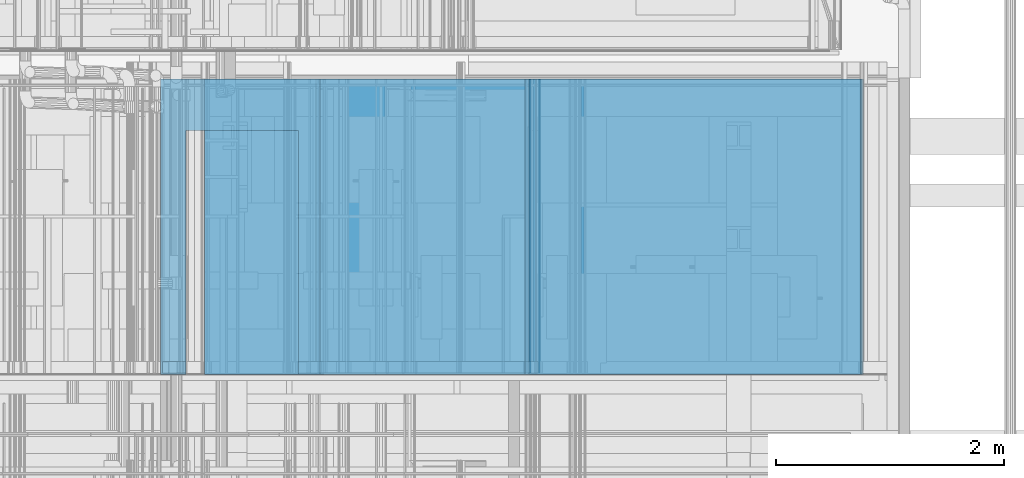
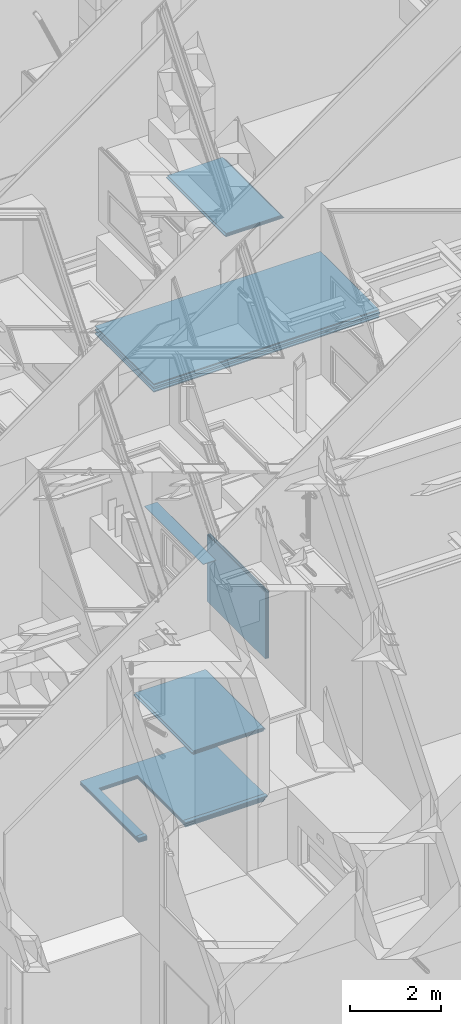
# One storey, part 124 of 583: 20 building element parts, 1 opening, 6 elements without a shape of their own.
"""IFC2X3 building model written with IfcOpenShell, lengths in metres."""

from ifc_helpers import new_model, entity, si_unit, converted_unit, derived_unit, money_unit, direction, frame, frame_2d, origin_with_axes, place, context, subcontext, project, spatial, polyline, rectangle, outline, extrude, material, type_object, element, aggregate, save


model = new_model("IFC2X3")

# Units and contexts
model_context = context("Model", 3, precision=1e-05, world=origin_with_axes(), true_north=direction((0.0, 1.0)))
body_context = subcontext(model_context, "Body", "Model", "MODEL_VIEW", scale=1.0)
ifc_project = project(units=[si_unit("LENGTHUNIT", "METRE"), si_unit("AREAUNIT", "SQUARE_METRE"), si_unit("VOLUMEUNIT", "CUBIC_METRE"), si_unit("ABSORBEDDOSEUNIT", "GRAY"), si_unit("AMOUNTOFSUBSTANCEUNIT", "MOLE"), si_unit("DOSEEQUIVALENTUNIT", "SIEVERT"), si_unit("ELECTRICCAPACITANCEUNIT", "FARAD"), si_unit("ELECTRICCHARGEUNIT", "COULOMB"), si_unit("ELECTRICCONDUCTANCEUNIT", "SIEMENS"), si_unit("ELECTRICCURRENTUNIT", "AMPERE"), si_unit("ELECTRICRESISTANCEUNIT", "OHM"), si_unit("ELECTRICVOLTAGEUNIT", "VOLT"), si_unit("ENERGYUNIT", "JOULE"), si_unit("FORCEUNIT", "NEWTON"), si_unit("FREQUENCYUNIT", "HERTZ"), si_unit("ILLUMINANCEUNIT", "LUX"), si_unit("INDUCTANCEUNIT", "HENRY"), si_unit("LUMINOUSFLUXUNIT", "LUMEN"), si_unit("LUMINOUSINTENSITYUNIT", "CANDELA"), si_unit("MAGNETICFLUXDENSITYUNIT", "TESLA"), si_unit("MAGNETICFLUXUNIT", "WEBER"), si_unit("MASSUNIT", "GRAM"), converted_unit("PLANEANGLEUNIT", "degree", entity("IfcReal", 0.0174532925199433), si_unit("PLANEANGLEUNIT", "RADIAN"), dimensions=[0, 0, 0, 0, 0, 0, 0]), si_unit("POWERUNIT", "WATT"), si_unit("PRESSUREUNIT", "PASCAL"), si_unit("RADIOACTIVITYUNIT", "BECQUEREL"), si_unit("SOLIDANGLEUNIT", "STERADIAN"), si_unit("THERMODYNAMICTEMPERATUREUNIT", "KELVIN"), si_unit("TIMEUNIT", "SECOND"), derived_unit("ACCELERATIONUNIT", [(si_unit("LENGTHUNIT", "METRE"), 1), (si_unit("TIMEUNIT", "SECOND"), -2)]), derived_unit("ANGULARVELOCITYUNIT", [(converted_unit("PLANEANGLEUNIT", "degree", entity("IfcReal", 0.0174532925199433), si_unit("PLANEANGLEUNIT", "RADIAN"), dimensions=[0, 0, 0, 0, 0, 0, 0]), 1), (si_unit("TIMEUNIT", "SECOND"), -1)]), derived_unit("CURVATUREUNIT", [(converted_unit("PLANEANGLEUNIT", "degree", entity("IfcReal", 0.0174532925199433), si_unit("PLANEANGLEUNIT", "RADIAN"), dimensions=[0, 0, 0, 0, 0, 0, 0]), 1), (si_unit("LENGTHUNIT", "METRE"), -1)]), derived_unit("DYNAMICVISCOSITYUNIT", [(si_unit("PRESSUREUNIT", "PASCAL"), 1), (si_unit("TIMEUNIT", "SECOND"), 1)]), derived_unit("HEATFLUXDENSITYUNIT", [(si_unit("POWERUNIT", "WATT"), 1), (si_unit("LENGTHUNIT", "METRE"), -2)]), derived_unit("HEATINGVALUEUNIT", [(si_unit("ENERGYUNIT", "JOULE"), 1), (si_unit("MASSUNIT", "GRAM"), -1)]), derived_unit("INTEGERCOUNTRATEUNIT", [(si_unit("TIMEUNIT", "SECOND"), -1)]), derived_unit("IONCONCENTRATIONUNIT", [(si_unit("MASSUNIT", "GRAM"), 1), (si_unit("VOLUMEUNIT", "CUBIC_METRE"), -1)]), derived_unit("ISOTHERMALMOISTURECAPACITYUNIT", [(si_unit("VOLUMEUNIT", "CUBIC_METRE"), 1), (si_unit("MASSUNIT", "GRAM"), -1)]), derived_unit("KINEMATICVISCOSITYUNIT", [(si_unit("AREAUNIT", "SQUARE_METRE"), 1), (si_unit("TIMEUNIT", "SECOND"), -1)]), derived_unit("LINEARFORCEUNIT", [(si_unit("FORCEUNIT", "NEWTON"), 1), (si_unit("LENGTHUNIT", "METRE"), -1)]), derived_unit("LINEARMOMENTUNIT", [(si_unit("FORCEUNIT", "NEWTON"), 1), (si_unit("LENGTHUNIT", "METRE"), -1)]), derived_unit("LINEARSTIFFNESSUNIT", [(si_unit("FORCEUNIT", "NEWTON"), 1), (si_unit("LENGTHUNIT", "METRE"), -1)]), derived_unit("LINEARVELOCITYUNIT", [(si_unit("LENGTHUNIT", "METRE"), 1), (si_unit("TIMEUNIT", "SECOND"), -1)]), derived_unit("LUMINOUSINTENSITYDISTRIBUTIONUNIT", [(si_unit("LUMINOUSINTENSITYUNIT", "CANDELA"), 1), (si_unit("LUMINOUSFLUXUNIT", "LUMEN"), -1)]), derived_unit("MASSDENSITYUNIT", [(si_unit("MASSUNIT", "GRAM"), 1), (si_unit("VOLUMEUNIT", "CUBIC_METRE"), -1)]), derived_unit("MASSFLOWRATEUNIT", [(si_unit("MASSUNIT", "GRAM"), 1), (si_unit("TIMEUNIT", "SECOND"), -1)]), derived_unit("MASSPERLENGTHUNIT", [(si_unit("MASSUNIT", "GRAM"), 1), (si_unit("LENGTHUNIT", "METRE"), -1)]), derived_unit("MODULUSOFELASTICITYUNIT", [(si_unit("FORCEUNIT", "NEWTON"), 1), (si_unit("AREAUNIT", "SQUARE_METRE"), -1)]), derived_unit("MODULUSOFLINEARSUBGRADEREACTIONUNIT", [(si_unit("FORCEUNIT", "NEWTON"), 1), (si_unit("LENGTHUNIT", "METRE"), -2)]), derived_unit("MODULUSOFROTATIONALSUBGRADEREACTIONUNIT", [(si_unit("FORCEUNIT", "NEWTON"), 1), (si_unit("LENGTHUNIT", "METRE"), 1)]), derived_unit("MODULUSOFSUBGRADEREACTIONUNIT", [(si_unit("FORCEUNIT", "NEWTON"), 1), (si_unit("VOLUMEUNIT", "CUBIC_METRE"), -1)]), derived_unit("MOISTUREDIFFUSIVITYUNIT", [(si_unit("VOLUMEUNIT", "CUBIC_METRE"), 1), (si_unit("TIMEUNIT", "SECOND"), -1)]), derived_unit("MOLECULARWEIGHTUNIT", [(si_unit("MASSUNIT", "GRAM"), 1), (si_unit("AMOUNTOFSUBSTANCEUNIT", "MOLE"), -1)]), derived_unit("PLANARFORCEUNIT", [(si_unit("FORCEUNIT", "NEWTON"), 1), (si_unit("LENGTHUNIT", "METRE"), -2)]), derived_unit("ROTATIONALFREQUENCYUNIT", [(si_unit("TIMEUNIT", "SECOND"), -1)]), derived_unit("ROTATIONALMASSUNIT", [(si_unit("MASSUNIT", "GRAM"), 1), (si_unit("LENGTHUNIT", "METRE"), 2)]), derived_unit("ROTATIONALSTIFFNESSUNIT", [(si_unit("FORCEUNIT", "NEWTON"), 1), (si_unit("LENGTHUNIT", "METRE"), 1), (converted_unit("PLANEANGLEUNIT", "degree", entity("IfcReal", 0.0174532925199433), si_unit("PLANEANGLEUNIT", "RADIAN"), dimensions=[0, 0, 0, 0, 0, 0, 0]), -1)]), derived_unit("SECTIONAREAINTEGRALUNIT", [(si_unit("LENGTHUNIT", "METRE"), 5)]), derived_unit("SECTIONMODULUSUNIT", [(si_unit("LENGTHUNIT", "METRE"), 3)]), derived_unit("SHEARMODULUSUNIT", [(si_unit("FORCEUNIT", "NEWTON"), 1), (si_unit("AREAUNIT", "SQUARE_METRE"), -1)]), derived_unit("SOUNDPOWERUNIT", [(si_unit("ENERGYUNIT", "JOULE"), 1), (si_unit("TIMEUNIT", "SECOND"), -1)]), derived_unit("SPECIFICHEATCAPACITYUNIT", [(si_unit("FORCEUNIT", "NEWTON"), 1), (si_unit("MASSUNIT", "GRAM"), -1), (si_unit("THERMODYNAMICTEMPERATUREUNIT", "KELVIN"), -1)]), derived_unit("TEMPERATUREGRADIENTUNIT", [(si_unit("THERMODYNAMICTEMPERATUREUNIT", "KELVIN"), 1), (si_unit("LENGTHUNIT", "METRE"), -1)]), derived_unit("THERMALADMITTANCEUNIT", [(si_unit("POWERUNIT", "WATT"), 1), (si_unit("AREAUNIT", "SQUARE_METRE"), -1), (si_unit("THERMODYNAMICTEMPERATUREUNIT", "KELVIN"), -1)]), derived_unit("THERMALCONDUCTANCEUNIT", [(si_unit("POWERUNIT", "WATT"), 1), (si_unit("LENGTHUNIT", "METRE"), -1), (si_unit("THERMODYNAMICTEMPERATUREUNIT", "KELVIN"), -1)]), derived_unit("THERMALEXPANSIONCOEFFICIENTUNIT", [(si_unit("THERMODYNAMICTEMPERATUREUNIT", "KELVIN"), -1)]), derived_unit("THERMALRESISTANCEUNIT", [(si_unit("AREAUNIT", "SQUARE_METRE"), 1), (si_unit("POWERUNIT", "WATT"), -1)]), derived_unit("THERMALTRANSMITTANCEUNIT", [(si_unit("POWERUNIT", "WATT"), 1), (si_unit("AREAUNIT", "SQUARE_METRE"), -1), (si_unit("THERMODYNAMICTEMPERATUREUNIT", "KELVIN"), -1)]), derived_unit("TORQUEUNIT", [(si_unit("FORCEUNIT", "NEWTON"), 1), (si_unit("LENGTHUNIT", "METRE"), 1)]), derived_unit("VAPORPERMEABILITYUNIT", [(si_unit("MASSUNIT", "GRAM"), 1), (si_unit("TIMEUNIT", "SECOND"), -1)]), derived_unit("VOLUMETRICFLOWRATEUNIT", [(si_unit("VOLUMEUNIT", "CUBIC_METRE"), 1), (si_unit("TIMEUNIT", "SECOND"), -1)]), derived_unit("WARPINGCONSTANTUNIT", [(si_unit("LENGTHUNIT", "METRE"), 6)]), derived_unit("WARPINGMOMENTUNIT", [(si_unit("FORCEUNIT", "NEWTON"), 1), (si_unit("LENGTHUNIT", "METRE"), 2)]), money_unit("GBP")], contexts=[model_context])

# Site, building, storey
site_placement = place(None, origin_with_axes())
site = spatial("IfcSite", under=ifc_project, at=site_placement, Name="Site", CompositionType="ELEMENT")
building_placement = place(site_placement, origin_with_axes())
building = spatial("IfcBuilding", under=site, at=building_placement, Name="Building01", CompositionType="ELEMENT")
storey_placement = place(building_placement, frame((0.0, 0.0, 20.78), z_axis=(0.0, 0.0, 1.0), x_axis=(1.0, 0.0, 0.0)))
storey = spatial("IfcBuildingStorey", under=building, at=storey_placement, Name="RL", CompositionType="ELEMENT", Elevation=20.78)

# Wall, building element parts
wall_type_1 = type_object("IfcWallType", Name="SHE_A-Walls_Type05a_Partition_95mm_tall", PredefinedType="NOTDEFINED")
wall_1_placement = place(storey_placement, frame((10.63, 12.13, -1.694716), z_axis=(0.0, 1.0, 0.0), x_axis=(1.0, 0.0, 0.0)))
wall_1 = element("IfcWall", 1, at=wall_1_placement, inside=storey, type_object=wall_type_1, Name="5A", ObjectType="SHE_A-Walls_Type05a_Partition_95mm_tall")
ifc_material_1 = material(Name="A_BSUK_Insulation")
placement_1 = place(wall_1_placement, origin_with_axes())
building_element_part_1 = element("IfcBuildingElementPart", 2, at=placement_1, material=ifc_material_1, Name="1", context=body_context, shape_type="SweptSolid", body=[
    extrude(outline(polyline([(1.494378, 0.025), (0.0, 0.025), (0.0, 0.0), (1.469378, 0.0), (1.494378, 0.025)])), origin_with_axes(), (0.0, 0.0, 1.0), 2.59),
])
ifc_material_2 = material(Name="A_BSUK_WallInternal_Finishes_Plasterboard")
building_element_part_2 = element("IfcBuildingElementPart", 3, at=placement_1, material=ifc_material_2, Name="4", context=body_context, shape_type="SweptSolid", body=[
    extrude(outline(polyline([(1.529378, 0.06), (0.035, 0.06), (0.035, 0.048), (1.517378, 0.048), (1.529378, 0.06)])), origin_with_axes(), (0.0, 0.0, 1.0), 2.59),
])
building_element_part_3 = element("IfcBuildingElementPart", 4, at=placement_1, material=ifc_material_2, Name="5", context=body_context, shape_type="SweptSolid", body=[
    extrude(outline(polyline([(1.446378, -0.023), (0.035, -0.023), (0.035, -0.035), (1.434378, -0.035), (1.446378, -0.023)])), origin_with_axes(), (0.0, 0.0, 1.0), 2.59),
])
aggregate(wall_1, [building_element_part_1, building_element_part_2, building_element_part_3])

wall_type_2 = type_object("IfcWallType", Name="SHE_A-Walls_Type01c_Partywall_225mm_twin_tall", PredefinedType="NOTDEFINED")
wall_2_placement = place(storey_placement, frame((8.82, 12.13, -5.159868), z_axis=(0.0, 1.0, 0.0), x_axis=(1.0, 0.0, 0.0)))
wall_2 = element("IfcWall", 5, at=wall_2_placement, inside=storey, type_object=wall_type_2, Name="1C", ObjectType="SHE_A-Walls_Type01c_Partywall_225mm_twin_tall")
placement_2 = place(wall_2_placement, origin_with_axes())
building_element_part_4 = element("IfcBuildingElementPart", 6, at=placement_2, material=ifc_material_1, Name="1", context=body_context, shape_type="SweptSolid", body=[
    extrude(rectangle(XDim=5.774, YDim=0.05, at=frame_2d((2.887, 0.025), x_axis=(-1.0, 0.0))), origin_with_axes(), (0.0, 0.0, 1.0), 2.59),
])
building_element_part_5 = element("IfcBuildingElementPart", 7, at=placement_2, material=ifc_material_2, Name="3", context=body_context, shape_type="SweptSolid", body=[
    extrude(rectangle(XDim=5.747, YDim=0.015, at=frame_2d((2.8735, 0.1295), x_axis=(-1.0, 0.0))), origin_with_axes(), (0.0, 0.0, 1.0), 2.59),
])
building_element_part_6 = element("IfcBuildingElementPart", 8, at=placement_2, material=ifc_material_2, Name="4", context=body_context, shape_type="SweptSolid", body=[
    extrude(rectangle(XDim=5.762, YDim=0.015, at=frame_2d((2.881, 0.1145), x_axis=(-1.0, 0.0))), origin_with_axes(), (0.0, 0.0, 1.0), 2.59),
])
building_element_part_7 = element("IfcBuildingElementPart", 9, at=placement_2, material=ifc_material_2, Name="5", context=body_context, shape_type="SweptSolid", body=[
    extrude(rectangle(XDim=5.762, YDim=0.015, at=frame_2d((2.881, -0.0655), x_axis=(-1.0, 0.0))), origin_with_axes(), (0.0, 0.0, 1.0), 2.59),
])
building_element_part_8 = element("IfcBuildingElementPart", 10, at=placement_2, material=ifc_material_2, Name="6", context=body_context, shape_type="SweptSolid", body=[
    extrude(rectangle(XDim=5.747, YDim=0.015, at=frame_2d((2.8735, -0.0805), x_axis=(-1.0, 0.0))), origin_with_axes(), (0.0, 0.0, 1.0), 2.59),
])
aggregate(wall_2, [building_element_part_4, building_element_part_5, building_element_part_6, building_element_part_7, building_element_part_8])

wall_3_placement = place(storey_placement, frame((11.703124, 12.13, -11.69), z_axis=(0.0, 1.0, 0.0), x_axis=(0.0, 0.0, -1.0)))
wall_3 = element("IfcWall", 11, at=wall_3_placement, inside=storey, type_object=wall_type_1, Name="5A", ObjectType="SHE_A-Walls_Type05a_Partition_95mm_tall")
placement_3 = place(wall_3_placement, origin_with_axes())
building_element_part_9 = element("IfcBuildingElementPart", 12, at=placement_3, material=ifc_material_1, Name="1", context=body_context, shape_type="SweptSolid", body=[
    extrude(rectangle(XDim=1.800331, YDim=0.025, at=frame_2d((0.900166, -0.0125), x_axis=(1.0, 0.0))), origin_with_axes(), (0.0, 0.0, 1.0), 2.59),
])
building_element_part_10 = element("IfcBuildingElementPart", 13, at=placement_3, material=ifc_material_2, Name="4", context=body_context, shape_type="SweptSolid", body=[
    extrude(rectangle(XDim=1.800331, YDim=0.012, at=frame_2d((0.900166, 0.029), x_axis=(1.0, 0.0))), origin_with_axes(), (0.0, 0.0, 1.0), 2.59),
])
building_element_part_11 = element("IfcBuildingElementPart", 14, at=placement_3, material=ifc_material_2, Name="5", context=body_context, shape_type="SweptSolid", body=[
    extrude(rectangle(XDim=1.800331, YDim=0.012, at=frame_2d((0.900166, -0.054), x_axis=(1.0, 0.0))), origin_with_axes(), (0.0, 0.0, 1.0), 2.59),
])
aggregate(wall_3, [building_element_part_9, building_element_part_10, building_element_part_11])

# Wall, opening, building element parts
wall_4_placement = place(storey_placement, frame((8.43567, 12.13, -17.245331), z_axis=(0.0, 1.0, 0.0), x_axis=(1.0, 0.0, 0.0)))
wall_4 = element("IfcWall", 15, at=wall_4_placement, inside=storey, type_object=wall_type_1, Name="5A", ObjectType="SHE_A-Walls_Type05a_Partition_95mm_tall")
opening_placement = place(wall_4_placement, frame((0.223034, 0.06, 0.0), z_axis=(0.0, 0.0, 1.0), x_axis=(1.0, 0.0, 0.0)))
element("IfcOpeningElement", 16, at=opening_placement, cuts=wall_4, Name="Opening", ObjectType="Opening", context=body_context, shape_type="SweptSolid", body=[
    extrude(rectangle(XDim=2.142, YDim=0.984, at=frame_2d((-0.492, 1.071), x_axis=(0.0, -1.0))), frame((0.0, -4.554664, 0.0), z_axis=(0.0, 1.0, 0.0), x_axis=(-1.0, 0.0, 0.0)), (0.0, 0.0, 1.0), 9.109328),
])
placement_4 = place(wall_4_placement, origin_with_axes())
building_element_part_12 = element("IfcBuildingElementPart", 17, at=placement_4, material=ifc_material_1, Name="1", context=body_context, shape_type="SweptSolid", body=[
    extrude(rectangle(XDim=3.23, YDim=0.025, at=frame_2d((1.615, 0.0125), x_axis=(-1.0, 0.0))), origin_with_axes(), (0.0, 0.0, 1.0), 2.59),
])
ifc_material_3 = material(Name="A_BSUK_Walls_Timber")
building_element_part_13 = element("IfcBuildingElementPart", 18, at=placement_4, material=ifc_material_3, Name="2", context=body_context, shape_type="SweptSolid", body=[
    extrude(outline(polyline([(3.18, 0.075), (0.015, 0.075), (0.015, 0.06), (3.195, 0.06), (3.18, 0.075)])), frame((0.0, 0.0, 0.015), z_axis=(0.0, 0.0, 1.0), x_axis=(1.0, 0.0, 0.0)), (0.0, 0.0, 1.0), 0.1),
])
building_element_part_14 = element("IfcBuildingElementPart", 19, at=placement_4, material=ifc_material_3, Name="3", context=body_context, shape_type="SweptSolid", body=[
    extrude(outline(polyline([(3.29, -0.035), (0.015, -0.035), (0.015, -0.05), (3.305, -0.05), (3.29, -0.035)])), frame((0.0, 0.0, 0.015), z_axis=(0.0, 0.0, 1.0), x_axis=(1.0, 0.0, 0.0)), (0.0, 0.0, 1.0), 0.1),
])
building_element_part_15 = element("IfcBuildingElementPart", 20, at=placement_4, material=ifc_material_2, Name="4", context=body_context, shape_type="SweptSolid", body=[
    extrude(outline(polyline([(3.195, 0.06), (0.0, 0.06), (0.0, 0.048), (3.207, 0.048), (3.195, 0.06)])), origin_with_axes(), (0.0, 0.0, 1.0), 2.59),
])
building_element_part_16 = element("IfcBuildingElementPart", 21, at=placement_4, material=ifc_material_2, Name="5", context=body_context, shape_type="SweptSolid", body=[
    extrude(outline(polyline([(3.278, -0.023), (0.0, -0.023), (0.0, -0.035), (3.29, -0.035), (3.278, -0.023)])), origin_with_axes(), (0.0, 0.0, 1.0), 2.59),
])
aggregate(wall_4, [building_element_part_12, building_element_part_13, building_element_part_14, building_element_part_15, building_element_part_16])

# Wall, building element parts
wall_5_placement = place(storey_placement, frame((9.79567, 12.13, -15.350331), z_axis=(0.0, 1.0, 0.0), x_axis=(1.0, 0.0, 0.0)))
wall_5 = element("IfcWall", 22, at=wall_5_placement, inside=storey, type_object=wall_type_1, Name="5A", ObjectType="SHE_A-Walls_Type05a_Partition_95mm_tall")
placement_5 = place(wall_5_placement, origin_with_axes())
building_element_part_17 = element("IfcBuildingElementPart", 23, at=placement_5, material=ifc_material_1, Name="1", context=body_context, shape_type="SweptSolid", body=[
    extrude(rectangle(XDim=1.87, YDim=0.025, at=frame_2d((0.935, 0.0125), x_axis=(-1.0, 0.0))), origin_with_axes(), (0.0, 0.0, 1.0), 2.59),
])
building_element_part_18 = element("IfcBuildingElementPart", 24, at=placement_5, material=ifc_material_2, Name="4", context=body_context, shape_type="SweptSolid", body=[
    extrude(rectangle(XDim=1.8, YDim=0.012, at=frame_2d((0.935, 0.054), x_axis=(-1.0, 0.0))), origin_with_axes(), (0.0, 0.0, 1.0), 2.59),
])
building_element_part_19 = element("IfcBuildingElementPart", 25, at=placement_5, material=ifc_material_2, Name="5", context=body_context, shape_type="SweptSolid", body=[
    extrude(rectangle(XDim=1.8, YDim=0.012, at=frame_2d((0.935, -0.029), x_axis=(-1.0, 0.0))), origin_with_axes(), (0.0, 0.0, 1.0), 2.59),
])
aggregate(wall_5, [building_element_part_17, building_element_part_18, building_element_part_19])

# Wall, building element part
wall_6_placement = place(storey_placement, frame((8.82, 12.13, -10.326129), z_axis=(0.0, 1.0, 0.0), x_axis=(1.0, 0.0, 0.0)))
wall_6 = element("IfcWall", 26, at=wall_6_placement, inside=storey, type_object=wall_type_1, Name="5A", ObjectType="SHE_A-Walls_Type05a_Partition_95mm_tall")
building_element_part_20_placement = place(wall_6_placement, origin_with_axes())
building_element_part_20 = element("IfcBuildingElementPart", 27, at=building_element_part_20_placement, material=ifc_material_2, Name="7", context=body_context, shape_type="SweptSolid", body=[
    extrude(outline(polyline([(1.595, 0.06), (1.255704, 0.06), (1.255704, 0.048), (1.583, 0.048), (1.595, 0.06)])), origin_with_axes(), (0.0, 0.0, 1.0), 2.59),
])
aggregate(wall_6, [building_element_part_20])

save(model, "model.ifc")
